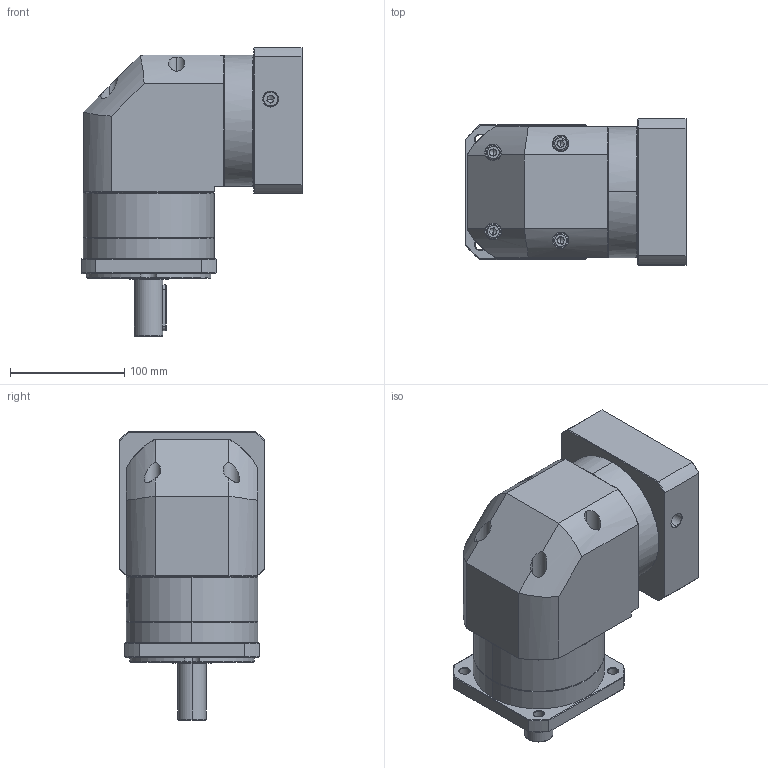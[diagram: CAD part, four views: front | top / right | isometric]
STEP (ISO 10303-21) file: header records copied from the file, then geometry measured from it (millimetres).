
FILE_DESCRIPTION (( 'STEP AP214' ), '1' );
FILE_NAME ('ZFR120A-D25-L1-P2-19-110-145-M8.step', '2023-08-27T08:00:45', ( '' ), ( '' ), 'SwSTEP 2.0', 'SolidWorks 2016', '' );
FILE_SCHEMA (( 'AUTOMOTIVE_DESIGN' ));
Length unit declared in the file: millimetre
Products named in the file (1): ZFR120A-D25-L1-P2-19-110-145-M8
Bounding box: 193.9 x 128 x 253 mm (x, y, z)
Volume: 2979117.2 mm3; surface area: 251209.3 mm2
Topology: 6 solids, 6 shells, 2265 faces, 5966 edges, 3806 vertices
Faces by surface type: plane 1061, cylinder 434, bspline 425, cone 337, torus 8
Entity records: 124059 total; most frequent: CARTESIAN_POINT 48749, ORIENTED_EDGE 11872, DIRECTION 8600, EDGE_CURVE 5936, VERTEX_POINT 3806, VECTOR 3158, LINE 3158, AXIS2_PLACEMENT_3D 2721
